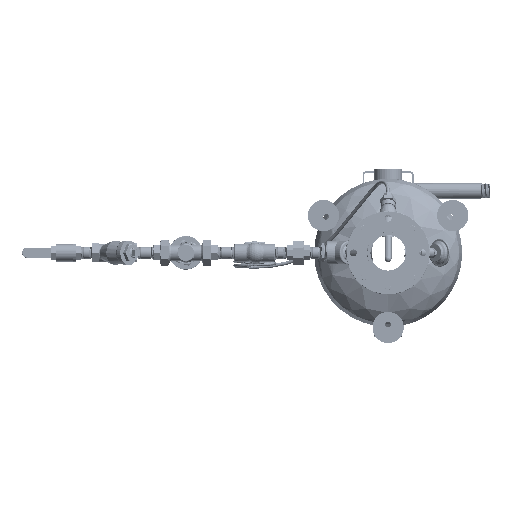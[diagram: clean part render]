
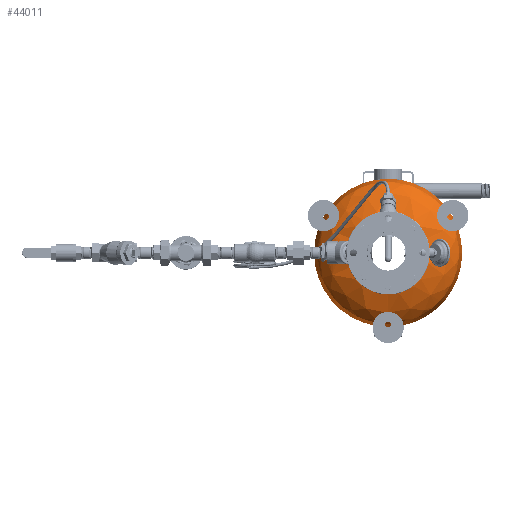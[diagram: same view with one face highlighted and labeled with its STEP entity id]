
A CAD part, front view. The second image highlights one B-rep face of the part: STEP entity #44011.
In plain terms, the highlighted free-form (B-spline) face has degree [2, 2] with [3, 9] control points.
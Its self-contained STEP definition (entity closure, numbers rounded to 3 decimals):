
#782=ELLIPSE('',#47266,8.,4.);
#850=(
BOUNDED_SURFACE()
B_SPLINE_SURFACE(2,2,((#82467,#82468,#82469,#82470,#82471,#82472,#82473,
#82474,#82475),(#82476,#82477,#82478,#82479,#82480,#82481,#82482,#82483,
#82484),(#82485,#82486,#82487,#82488,#82489,#82490,#82491,#82492,#82493)),
 .UNSPECIFIED.,.F.,.T.,.F.)
B_SPLINE_SURFACE_WITH_KNOTS((3,3),(3,2,2,2,3),(0.,1.571),
(0.,1.571,3.142,4.712,6.283),
 .UNSPECIFIED.)
GEOMETRIC_REPRESENTATION_ITEM()
RATIONAL_B_SPLINE_SURFACE(((1.,0.707,1.,0.707,1.,
0.707,1.,0.707,1.),(0.707,0.5,0.707,
0.5,0.707,0.5,0.707,0.5,0.707),(1.,
0.707,1.,0.707,1.,0.707,1.,0.707,
1.)))
REPRESENTATION_ITEM('')
SURFACE()
);
#4583=CIRCLE('',#47267,8.);
#4584=CIRCLE('',#47268,8.);
#6842=FACE_OUTER_BOUND('',#9403,.T.);
#9403=EDGE_LOOP('',(#30105,#30106,#30107,#30108,#30109,#30110));
#16667=B_SPLINE_CURVE_WITH_KNOTS('',3,(#82259,#82260,#82261,#82262,#82263,
#82264,#82265,#82266,#82267,#82268,#82269,#82270,#82271,#82272,#82273,#82274,
#82275,#82276,#82277,#82278),.UNSPECIFIED.,.F.,.F.,(4,2,2,2,2,2,2,2,2,4),
(-27.016,-26.79,-24.558,-22.325,
-20.093,-17.86,-15.628,-13.395,
-11.163,-9.005),.UNSPECIFIED.);
#16668=B_SPLINE_CURVE_WITH_KNOTS('',3,(#82279,#82280,#82281,#82282,#82283,
#82284,#82285,#82286,#82287,#82288,#82289,#82290,#82291,#82292,#82293,#82294,
#82295,#82296,#82297,#82298,#82299,#82300,#82301),.UNSPECIFIED.,.F.,.F.,
(4,2,2,2,2,3,2,2,2,2,4),(-9.005,-8.93,-6.698,
-4.465,-2.233,0.,1.264,2.528,
4.761,6.993,9.),.UNSPECIFIED.);
#18564=VERTEX_POINT('',#82256);
#18565=VERTEX_POINT('',#82258);
#18569=VERTEX_POINT('',#82494);
#18570=VERTEX_POINT('',#82496);
#23071=EDGE_CURVE('',#18565,#18564,#16667,.T.);
#23072=EDGE_CURVE('',#18564,#18565,#16668,.T.);
#23078=EDGE_CURVE('',#18569,#18565,#782,.T.);
#23079=EDGE_CURVE('',#18570,#18569,#4583,.T.);
#23080=EDGE_CURVE('',#18569,#18570,#4584,.T.);
#30105=ORIENTED_EDGE('',*,*,#23071,.T.);
#30106=ORIENTED_EDGE('',*,*,#23072,.T.);
#30107=ORIENTED_EDGE('',*,*,#23078,.F.);
#30108=ORIENTED_EDGE('',*,*,#23079,.F.);
#30109=ORIENTED_EDGE('',*,*,#23080,.F.);
#30110=ORIENTED_EDGE('',*,*,#23078,.T.);
#44011=ADVANCED_FACE('',(#6842),#850,.T.);
#47266=AXIS2_PLACEMENT_3D('',#82495,#52179,#52180);
#47267=AXIS2_PLACEMENT_3D('',#82497,#52181,#52182);
#47268=AXIS2_PLACEMENT_3D('',#82498,#52183,#52184);
#52179=DIRECTION('center_axis',(0.,0.,1.));
#52180=DIRECTION('ref_axis',(1.,0.,0.));
#52181=DIRECTION('center_axis',(0.,-1.,0.));
#52182=DIRECTION('ref_axis',(1.,0.,0.));
#52183=DIRECTION('center_axis',(0.,-1.,0.));
#52184=DIRECTION('ref_axis',(1.,0.,0.));
#82256=CARTESIAN_POINT('',(-2.25,5.839,0.));
#82258=CARTESIAN_POINT('',(2.25,5.839,0.));
#82259=CARTESIAN_POINT('Ctrl Pts',(2.25,5.839,0.));
#82260=CARTESIAN_POINT('Ctrl Pts',(2.25,5.839,0.03));
#82261=CARTESIAN_POINT('Ctrl Pts',(2.249,5.839,0.059));
#82262=CARTESIAN_POINT('Ctrl Pts',(2.237,5.839,0.381));
#82263=CARTESIAN_POINT('Ctrl Pts',(2.168,5.839,0.669));
#82264=CARTESIAN_POINT('Ctrl Pts',(1.924,5.839,1.202));
#82265=CARTESIAN_POINT('Ctrl Pts',(1.752,5.839,1.442));
#82266=CARTESIAN_POINT('Ctrl Pts',(1.324,5.839,1.843));
#82267=CARTESIAN_POINT('Ctrl Pts',(1.073,5.839,1.999));
#82268=CARTESIAN_POINT('Ctrl Pts',(0.525,5.839,2.207));
#82269=CARTESIAN_POINT('Ctrl Pts',(0.234,5.839,2.257));
#82270=CARTESIAN_POINT('Ctrl Pts',(-0.352,5.839,
2.242));
#82271=CARTESIAN_POINT('Ctrl Pts',(-0.641,5.839,
2.177));
#82272=CARTESIAN_POINT('Ctrl Pts',(-1.177,5.839,1.94));
#82273=CARTESIAN_POINT('Ctrl Pts',(-1.419,5.839,1.771));
#82274=CARTESIAN_POINT('Ctrl Pts',(-1.825,5.839,1.348));
#82275=CARTESIAN_POINT('Ctrl Pts',(-1.985,5.839,1.099));
#82276=CARTESIAN_POINT('Ctrl Pts',(-2.197,5.839,0.563));
#82277=CARTESIAN_POINT('Ctrl Pts',(-2.25,5.839,0.283));
#82278=CARTESIAN_POINT('Ctrl Pts',(-2.25,5.839,0.));
#82279=CARTESIAN_POINT('Ctrl Pts',(-2.25,5.839,0.));
#82280=CARTESIAN_POINT('Ctrl Pts',(-2.25,5.839,-0.01));
#82281=CARTESIAN_POINT('Ctrl Pts',(-2.25,5.839,-0.02));
#82282=CARTESIAN_POINT('Ctrl Pts',(-2.246,5.839,-0.322));
#82283=CARTESIAN_POINT('Ctrl Pts',(-2.185,5.839,-0.612));
#82284=CARTESIAN_POINT('Ctrl Pts',(-1.955,5.839,-1.151));
#82285=CARTESIAN_POINT('Ctrl Pts',(-1.789,5.839,-1.396));
#82286=CARTESIAN_POINT('Ctrl Pts',(-1.372,5.839,-1.807));
#82287=CARTESIAN_POINT('Ctrl Pts',(-1.125,5.839,-1.97));
#82288=CARTESIAN_POINT('Ctrl Pts',(-0.583,5.839,
-2.193));
#82289=CARTESIAN_POINT('Ctrl Pts',(-0.293,5.839,
-2.25));
#82290=CARTESIAN_POINT('Ctrl Pts',(0.,5.839,
-2.25));
#82291=CARTESIAN_POINT('Ctrl Pts',(0.166,5.839,-2.25));
#82292=CARTESIAN_POINT('Ctrl Pts',(0.331,5.839,-2.232));
#82293=CARTESIAN_POINT('Ctrl Pts',(0.655,5.839,-2.159));
#82294=CARTESIAN_POINT('Ctrl Pts',(0.812,5.839,-2.105));
#82295=CARTESIAN_POINT('Ctrl Pts',(1.227,5.839,-1.909));
#82296=CARTESIAN_POINT('Ctrl Pts',(1.465,5.839,-1.733));
#82297=CARTESIAN_POINT('Ctrl Pts',(1.86,5.839,-1.3));
#82298=CARTESIAN_POINT('Ctrl Pts',(2.013,5.839,-1.047));
#82299=CARTESIAN_POINT('Ctrl Pts',(2.204,5.839,-0.524));
#82300=CARTESIAN_POINT('Ctrl Pts',(2.25,5.839,-0.263));
#82301=CARTESIAN_POINT('Ctrl Pts',(2.25,5.839,0.));
#82467=CARTESIAN_POINT('Ctrl Pts',(8.,2.,0.));
#82468=CARTESIAN_POINT('Ctrl Pts',(8.,2.,8.));
#82469=CARTESIAN_POINT('Ctrl Pts',(0.,2.,8.));
#82470=CARTESIAN_POINT('Ctrl Pts',(-8.,2.,8.));
#82471=CARTESIAN_POINT('Ctrl Pts',(-8.,2.,0.));
#82472=CARTESIAN_POINT('Ctrl Pts',(-8.,2.,-8.));
#82473=CARTESIAN_POINT('Ctrl Pts',(0.,2.,-8.));
#82474=CARTESIAN_POINT('Ctrl Pts',(8.,2.,-8.));
#82475=CARTESIAN_POINT('Ctrl Pts',(8.,2.,0.));
#82476=CARTESIAN_POINT('Ctrl Pts',(8.,6.,0.));
#82477=CARTESIAN_POINT('Ctrl Pts',(8.,6.,8.));
#82478=CARTESIAN_POINT('Ctrl Pts',(0.,6.,8.));
#82479=CARTESIAN_POINT('Ctrl Pts',(-8.,6.,8.));
#82480=CARTESIAN_POINT('Ctrl Pts',(-8.,6.,0.));
#82481=CARTESIAN_POINT('Ctrl Pts',(-8.,6.,-8.));
#82482=CARTESIAN_POINT('Ctrl Pts',(0.,6.,-8.));
#82483=CARTESIAN_POINT('Ctrl Pts',(8.,6.,-8.));
#82484=CARTESIAN_POINT('Ctrl Pts',(8.,6.,0.));
#82485=CARTESIAN_POINT('Ctrl Pts',(0.,6.,0.));
#82486=CARTESIAN_POINT('Ctrl Pts',(0.,6.,0.));
#82487=CARTESIAN_POINT('Ctrl Pts',(0.,6.,0.));
#82488=CARTESIAN_POINT('Ctrl Pts',(0.,6.,0.));
#82489=CARTESIAN_POINT('Ctrl Pts',(0.,6.,0.));
#82490=CARTESIAN_POINT('Ctrl Pts',(0.,6.,0.));
#82491=CARTESIAN_POINT('Ctrl Pts',(0.,6.,0.));
#82492=CARTESIAN_POINT('Ctrl Pts',(0.,6.,0.));
#82493=CARTESIAN_POINT('Ctrl Pts',(0.,6.,0.));
#82494=CARTESIAN_POINT('',(8.,2.,0.));
#82495=CARTESIAN_POINT('Origin',(0.,2.,0.));
#82496=CARTESIAN_POINT('',(-8.,2.,0.));
#82497=CARTESIAN_POINT('Origin',(0.,2.,0.));
#82498=CARTESIAN_POINT('Origin',(0.,2.,0.));
